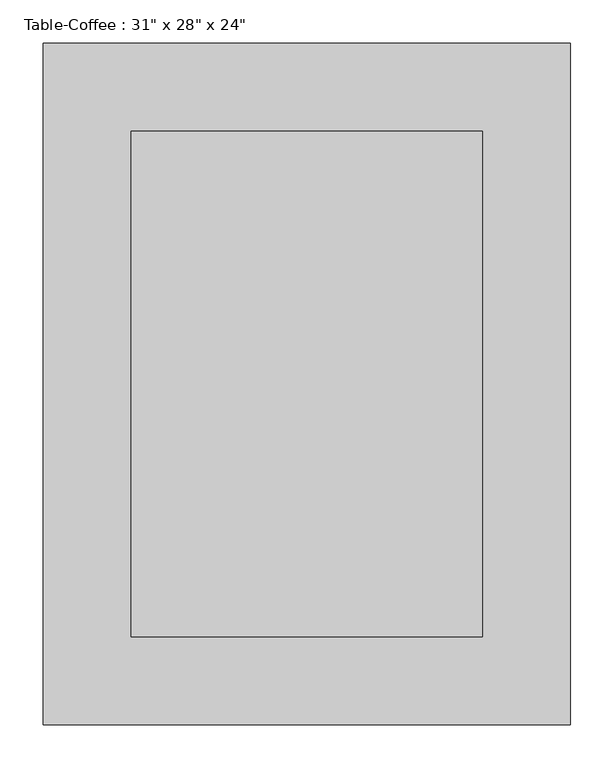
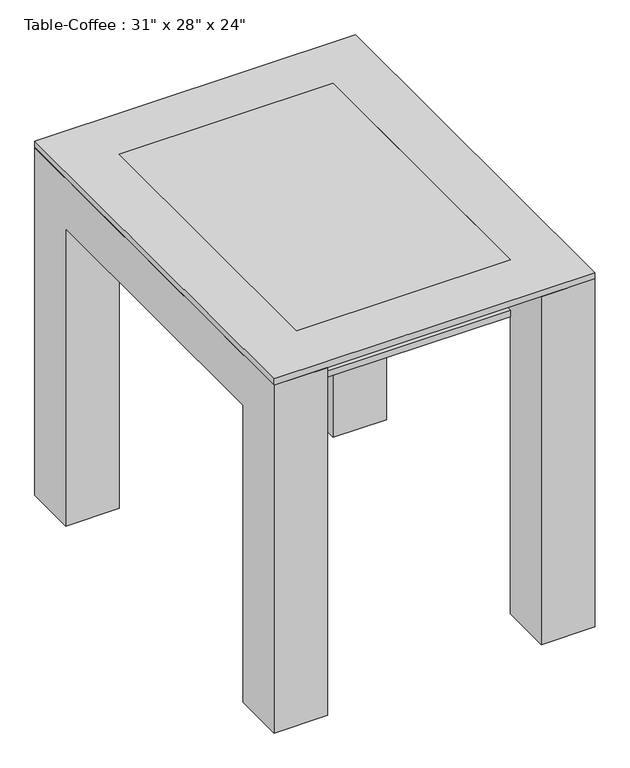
"""IFC4 building model written with IfcOpenShell, lengths in millimetres: furniture geometry."""

from ifc_helpers import new_model, si_unit, frame, origin, place, context, project, spatial, polyline, outline, extrude, source, transform, mapped, element, save


def furniture_32e53e92(model_context):
    return source(origin(), model_context, "Body", "SweptSolid", [
        extrude(outline(polyline([(221.4657667, -387.3110778), (-184.9342333, -387.3110778), (-184.9342333, 196.8889222), (221.4657667, 196.8889222), (221.4657667, -387.3110778)])), frame((0.0, 0.0, 596.9), z_axis=(0.0, 0.0, 1.0), x_axis=(1.0, 0.0, 0.0)), (0.0, 0.0, 1.0), 12.7),
        extrude(outline(polyline([(-488.9110778, 0.0), (-488.9110778, 698.5), (298.4889222, 698.5), (298.4889222, 0.0), (196.8889222, 0.0), (196.8889222, 596.9), (-387.3110778, 596.9), (-387.3110778, 0.0), (-488.9110778, 0.0)])), frame((221.4657667, 0.0, 0.0), z_axis=(1.0, 0.0, 0.0), x_axis=(0.0, 1.0, 0.0)), (0.0, 0.0, 1.0), 101.6),
        extrude(outline(polyline([(-488.9110778, 698.5), (298.4889222, 698.5), (298.4889222, 0.0), (196.8889222, 0.0), (196.8889222, 596.9), (-387.3110778, 596.9), (-387.3110778, 0.0), (-488.9110778, 0.0), (-488.9110778, 698.5)])), frame((-286.5342333, 0.0, 0.0), z_axis=(1.0, 0.0, 0.0), x_axis=(0.0, 1.0, 0.0)), (0.0, 0.0, 1.0), 101.6),
        extrude(outline(polyline([(221.4657667, -387.3110778), (-184.9342333, -387.3110778), (-184.9342333, 196.8889222), (221.4657667, 196.8889222), (221.4657667, -387.3110778)])), frame((0.0, 0.0, 698.5), z_axis=(0.0, 0.0, 1.0), x_axis=(1.0, 0.0, 0.0)), (0.0, 0.0, 1.0), 12.7),
        extrude(outline(polyline([(323.0657667, -488.9110778), (-286.5342333, -488.9110778), (-286.5342333, 298.4889222), (323.0657667, 298.4889222), (323.0657667, -488.9110778)]), holes=[polyline([(221.4657667, -387.3110778), (221.4657667, 196.8889222), (-184.9342333, 196.8889222), (-184.9342333, -387.3110778), (221.4657667, -387.3110778)])]), frame((0.0, 0.0, 698.5), z_axis=(0.0, 0.0, 1.0), x_axis=(1.0, 0.0, 0.0)), (0.0, 0.0, 1.0), 12.7),
    ])


if __name__ == "__main__":
    model = new_model("IFC4")
    model_context = context("Model", 3, world=origin())
    ifc_project = project(units=[si_unit("LENGTHUNIT", "METRE", prefix="MILLI")], contexts=[model_context])
    site = spatial("IfcSite", under=ifc_project)
    building = spatial("IfcBuilding", under=site)
    placement = place(None, origin())
    furniture_shape = furniture_32e53e92(model_context)
    element("IfcFurniture", 1, ObjectType="Table-Coffee : 31\" x 28\" x 24\"", at=placement, inside=building, context=model_context, shape_type="MappedRepresentation", body=[
        mapped(furniture_shape, transform((0.0, 0.0, 0.0), x_axis=(1.0, 0.0, 0.0), y_axis=(0.0, 1.0, 0.0), z_axis=(0.0, 0.0, 1.0))),
    ])
    save(model, "model.ifc")
